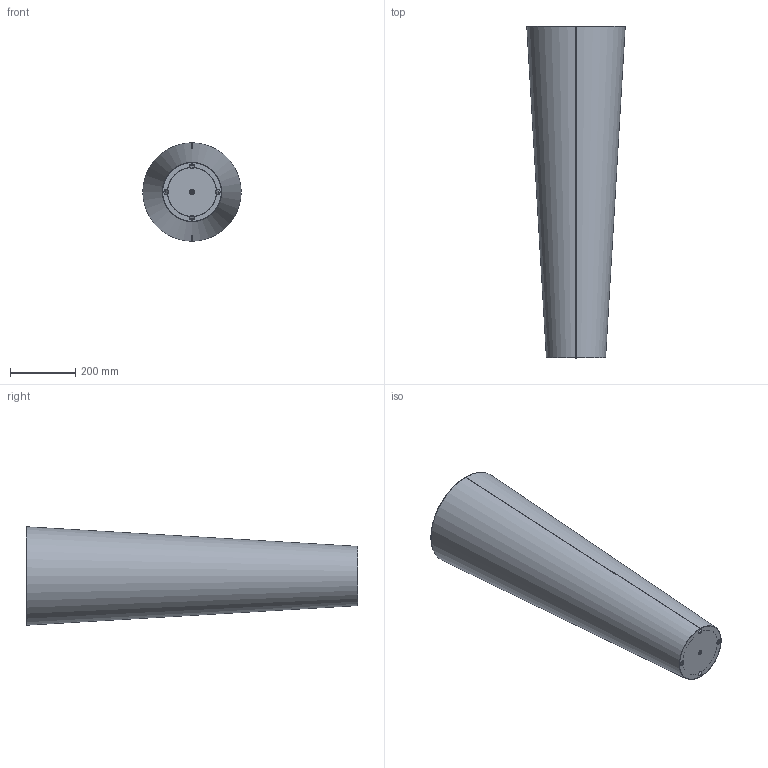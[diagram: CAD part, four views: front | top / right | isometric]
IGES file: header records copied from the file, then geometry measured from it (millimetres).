
Start section: SolidWorks IGES file using analytic representation for surfaces
Global section: file name: \\utenti\Dati Utenti\Tecnico\DC\2D - 3D per sito\3D\DeCastelli-3D-Narnya 100.igs; native system: SolidWorks 2022; preprocessor: SolidWorks 2022; author: Simonep; date: 240807.172451; units: millimetre
Bounding box: 301.86 x 1018.26 x 301.86 mm (x, y, z)
Surface area: 1768195.2 mm2 (no closed solid volume)
Topology: 0 solids, 0 shells, 52 faces, 1173 edges, 1173 vertices
Faces by surface type: bspline 32, revolution 20
